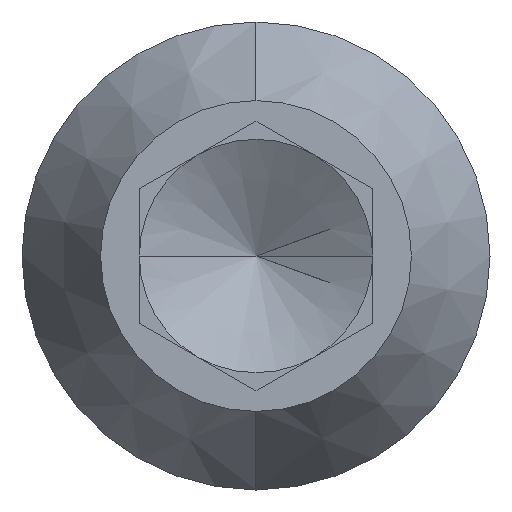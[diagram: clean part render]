
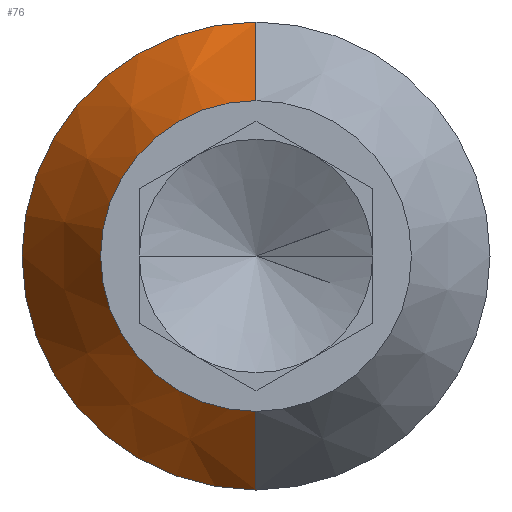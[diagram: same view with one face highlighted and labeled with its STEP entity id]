
A CAD part, left-side view. The second image highlights one B-rep face of the part: STEP entity #76.
In plain terms, the highlighted conical face has half-angle 30 degrees and reference radius 4.763 mm.
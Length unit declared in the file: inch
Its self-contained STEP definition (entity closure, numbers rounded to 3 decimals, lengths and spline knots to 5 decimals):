
#3 = ORIENTED_EDGE ( 'NONE', *, *, #26, .F. ) ;
#24 = ORIENTED_EDGE ( 'NONE', *, *, #101, .F. ) ;
#25 = VERTEX_POINT ( 'NONE', #430 ) ;
#26 = EDGE_CURVE ( 'NONE', #66, #65, #429, .T. ) ;
#27 = ORIENTED_EDGE ( 'NONE', *, *, #28, .T. ) ;
#28 = EDGE_CURVE ( 'NONE', #66, #25, #424, .T. ) ;
#65 = VERTEX_POINT ( 'NONE', #487 ) ;
#66 = VERTEX_POINT ( 'NONE', #486 ) ;
#70 = EDGE_LOOP ( 'NONE', ( #3, #27, #24, #103 ) ) ;
#76 = ADVANCED_FACE ( 'NONE', ( #526 ), #524, .T. ) ;
#101 = EDGE_CURVE ( 'NONE', #102, #25, #539, .T. ) ;
#102 = VERTEX_POINT ( 'NONE', #534 ) ;
#103 = ORIENTED_EDGE ( 'NONE', *, *, #104, .F. ) ;
#104 = EDGE_CURVE ( 'NONE', #65, #102, #597, .T. ) ;
#421 = DIRECTION ( 'NONE',  ( 0.866, 0., 0.5 ) ) ;
#422 = VECTOR ( 'NONE', #421, 39.37008 ) ;
#423 = CARTESIAN_POINT ( 'NONE',  ( 0.10912, 0., 0.1875 ) ) ;
#424 = LINE ( 'NONE', #423, #422 ) ;
#425 = DIRECTION ( 'NONE',  ( 0., 0., -1. ) ) ;
#426 = DIRECTION ( 'NONE',  ( -1., 0., 0. ) ) ;
#427 = CARTESIAN_POINT ( 'NONE',  ( 0., 0., 0. ) ) ;
#428 = AXIS2_PLACEMENT_3D ( 'NONE', #427, #426, #425 ) ;
#429 = CIRCLE ( 'NONE', #428, 0.1245 ) ;
#430 = CARTESIAN_POINT ( 'NONE',  ( 0.10912, 0., 0.1875 ) ) ;
#486 = CARTESIAN_POINT ( 'NONE',  ( 0., 0., 0.1245 ) ) ;
#487 = CARTESIAN_POINT ( 'NONE',  ( 0., 0., -0.1245 ) ) ;
#520 = DIRECTION ( 'NONE',  ( 0., 0., -1. ) ) ;
#521 = DIRECTION ( 'NONE',  ( 1., 0., 0. ) ) ;
#522 = CARTESIAN_POINT ( 'NONE',  ( 0.10912, 0., 0. ) ) ;
#523 = AXIS2_PLACEMENT_3D ( 'NONE', #522, #521, #520 ) ;
#524 = CONICAL_SURFACE ( 'NONE', #523, 0.1875, 0.524 ) ;
#526 = FACE_OUTER_BOUND ( 'NONE', #70, .T. ) ;
#534 = CARTESIAN_POINT ( 'NONE',  ( 0.10912, 0., -0.1875 ) ) ;
#535 = DIRECTION ( 'NONE',  ( 0., 0., -1. ) ) ;
#536 = DIRECTION ( 'NONE',  ( 1., 0., 0. ) ) ;
#537 = CARTESIAN_POINT ( 'NONE',  ( 0.10912, 0., 0. ) ) ;
#538 = AXIS2_PLACEMENT_3D ( 'NONE', #537, #536, #535 ) ;
#539 = CIRCLE ( 'NONE', #538, 0.1875 ) ;
#594 = DIRECTION ( 'NONE',  ( 0.866, 0., -0.5 ) ) ;
#595 = VECTOR ( 'NONE', #594, 39.37008 ) ;
#596 = CARTESIAN_POINT ( 'NONE',  ( 0.10912, 0., -0.1875 ) ) ;
#597 = LINE ( 'NONE', #596, #595 ) ;
